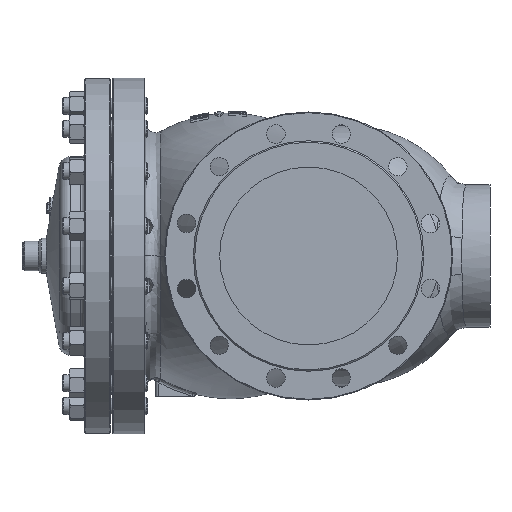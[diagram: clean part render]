
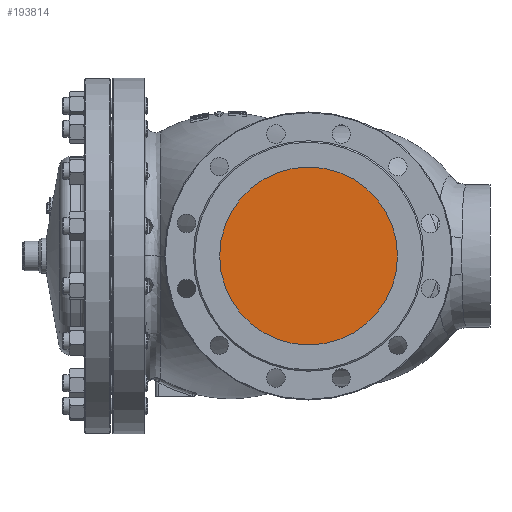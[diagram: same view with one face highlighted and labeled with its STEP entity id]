
A CAD part, left-side view. The second image highlights one B-rep face of the part: STEP entity #193814.
In plain terms, the highlighted planar face has unit normal (-1, 0, 0).
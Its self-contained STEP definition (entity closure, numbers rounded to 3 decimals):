
#19604 = CARTESIAN_POINT ( 'NONE',  ( -355., 0., -125. ) ) ;
#21862 = CIRCLE ( 'NONE', #266193, 125. ) ;
#25233 = VERTEX_POINT ( 'NONE', #19604 ) ;
#36591 = PLANE ( 'NONE',  #44239 ) ;
#44239 = AXIS2_PLACEMENT_3D ( 'NONE', #97726, #101511, #212561 ) ;
#48738 = ORIENTED_EDGE ( 'NONE', *, *, #265801, .F. ) ;
#97726 = CARTESIAN_POINT ( 'NONE',  ( -355., 0., 0. ) ) ;
#101511 = DIRECTION ( 'NONE',  ( -1., 0., 0. ) ) ;
#193814 = ADVANCED_FACE ( 'NONE', ( #210679 ), #36591, .T. ) ;
#206967 = CARTESIAN_POINT ( 'NONE',  ( -355., 0., 0. ) ) ;
#210679 = FACE_OUTER_BOUND ( 'NONE', #314423, .T. ) ;
#212561 = DIRECTION ( 'NONE',  ( 0., 0., -1. ) ) ;
#237487 = DIRECTION ( 'NONE',  ( 1., 0., 0. ) ) ;
#264266 = DIRECTION ( 'NONE',  ( 0., 0., -1. ) ) ;
#265801 = EDGE_CURVE ( 'NONE', #25233, #25233, #21862, .T. ) ;
#266193 = AXIS2_PLACEMENT_3D ( 'NONE', #206967, #237487, #264266 ) ;
#314423 = EDGE_LOOP ( 'NONE', ( #48738 ) ) ;
